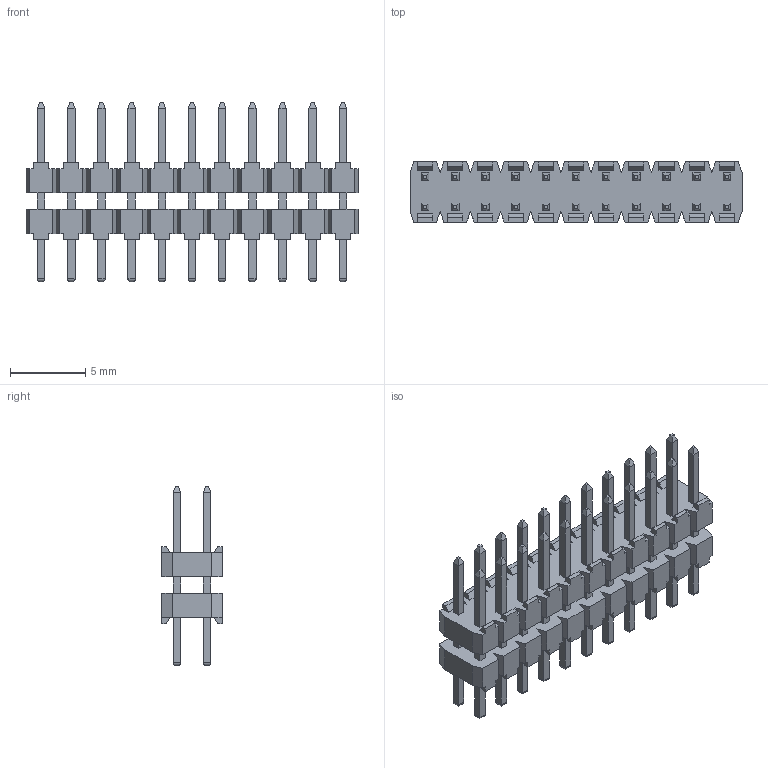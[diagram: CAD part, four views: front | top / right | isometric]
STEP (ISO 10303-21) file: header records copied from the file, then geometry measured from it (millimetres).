
FILE_DESCRIPTION(/* description */ (''),/* implementation_level */ '2;1');
FILE_NAME(/* name */ '951422-8011106-AR',/* time_stamp */ '2007-03-14T08:23:43+01:00',/* author */ (''),/* organization */ (''),/* preprocessor_version */ 'ST-DEVELOPER v9',/* originating_system */ 'UGS - NX 4.0',/* authorisation */ '');
FILE_SCHEMA (('AUTOMOTIVE_DESIGN { 1 0 10303 214 1 1 1 1 }'));
Length unit declared in the file: millimetre
Products named in the file (1): 951422-8011106-AR
Bounding box: 22 x 4 x 11.9 mm (x, y, z)
Volume: 323.2 mm3; surface area: 964.3 mm2
Topology: 1 solids, 1 shells, 800 faces, 2080 edges, 1328 vertices
Faces by surface type: plane 712, cylinder 88
Entity records: 23912 total; most frequent: CARTESIAN_POINT 4209, ORIENTED_EDGE 4160, DIRECTION 3770, EDGE_CURVE 2080, LINE 1992, VECTOR 1992, VERTEX_POINT 1328, AXIS2_PLACEMENT_3D 889
